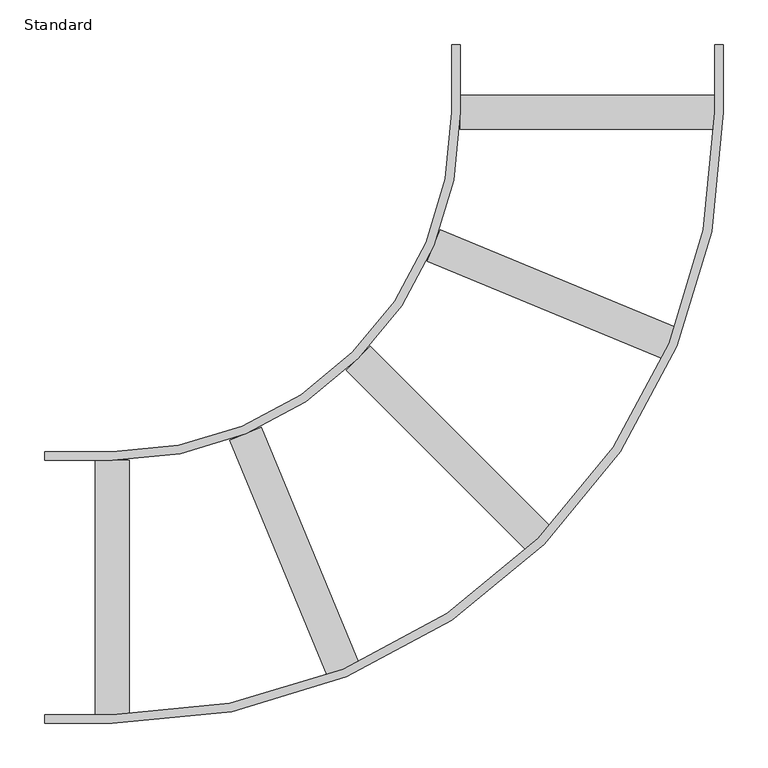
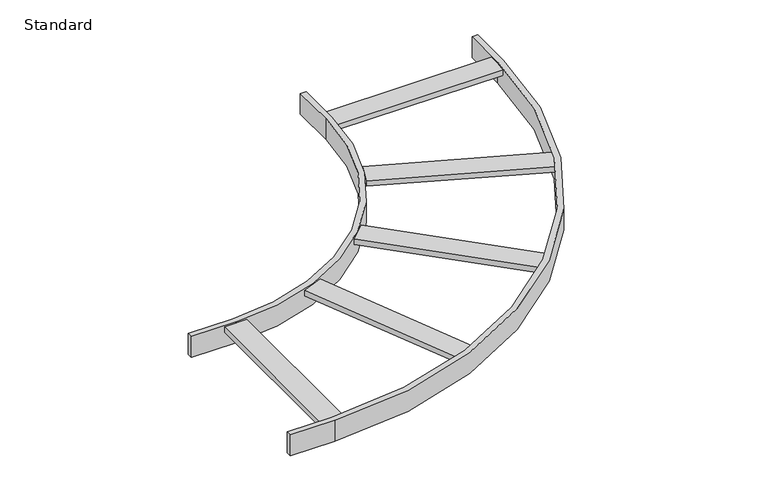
"""IFC4 building model written with IfcOpenShell, lengths in millimetres: cable carrier fitting geometry, Cable_Tray_Fitting-Bend-Chatsworth-Horizontal : Standard."""

from ifc_helpers import new_model, si_unit, point, frame, frame_2d, origin, place, context, project, spatial, polyline, circle_curve, trimmed, segment, composite_curve, outline, extrude, source, transform, mapped, element, save


def standard_ad48f5b5(model_context):
    return source(origin(), model_context, "Body", "SweptSolid", [
        extrude(outline(polyline([(-179.892065, 366.3526475), (-165.3118262, 401.5524577), (98.6867502, 292.2006669), (84.1065115, 257.0008567), (-179.892065, 366.3526475)])), frame((0.0, 0.0, 7.14248), z_axis=(0.0, 0.0, 1.0), x_axis=(1.0, 0.0, 0.0)), (0.0, 0.0, 1.0), 9.525),
        extrude(outline(polyline([(-401.5524577, 165.3118262), (-366.3526475, 179.892065), (-257.0008567, -84.1065115), (-292.2006669, -98.6867502), (-401.5524577, 165.3118262)])), frame((0.0, 0.0, 7.14248), z_axis=(0.0, 0.0, 1.0), x_axis=(1.0, 0.0, 0.0)), (0.0, 0.0, 1.0), 9.525),
        extrude(outline(polyline([(-142.875, 514.35), (-142.875, 552.45), (142.875, 552.45), (142.875, 514.35), (-142.875, 514.35)])), frame((0.0, 0.0, 7.14248), z_axis=(0.0, 0.0, 1.0), x_axis=(1.0, 0.0, 0.0)), (0.0, 0.0, 1.0), 9.525),
        extrude(outline(polyline([(-552.45, 142.875), (-514.35, 142.875), (-514.35, -142.875), (-552.45, -142.875), (-552.45, 142.875)])), frame((0.0, 0.0, 7.14248), z_axis=(0.0, 0.0, 1.0), x_axis=(1.0, 0.0, 0.0)), (0.0, 0.0, 1.0), 9.525),
        extrude(outline(polyline([(-270.7275085, 243.7867401), (-243.7867401, 270.7275085), (-41.7309774, 68.6717457), (-68.6717457, 41.7309774), (-270.7275085, 243.7867401)])), frame((0.0, 0.0, 7.14248), z_axis=(0.0, 0.0, 1.0), x_axis=(1.0, 0.0, 0.0)), (0.0, 0.0, 1.0), 9.525),
        extrude(outline(composite_curve([segment(polyline([(-609.6, -152.4), (-609.6, -142.875), (-533.4, -142.875)]), True, "CONTINUOUS"), segment(trimmed(circle_curve(frame_2d((-533.4, 533.4)), 676.275), [point((-533.4, -142.875))], [point((142.875, 533.4))], True, "CARTESIAN"), True, "CONTINUOUS"), segment(polyline([(142.875, 533.4), (142.875, 609.6), (152.4, 609.6), (152.4, 533.4)]), True, "CONTINUOUS"), segment(trimmed(circle_curve(frame_2d((-533.4, 533.4)), 685.8), [point((152.4, 533.4))], [point((-533.4, -152.4))], False, "CARTESIAN"), True, "CONTINUOUS"), segment(polyline([(-533.4, -152.4), (-609.6, -152.4)]), True, "CONTINUOUS")], self_intersect=False)), frame((0.0, 0.0, -19.05), z_axis=(0.0, 0.0, 1.0), x_axis=(1.0, 0.0, 0.0)), (0.0, 0.0, 1.0), 38.1),
        extrude(outline(composite_curve([segment(polyline([(-609.6, 142.875), (-609.6, 152.4), (-533.4, 152.4)]), True, "CONTINUOUS"), segment(trimmed(circle_curve(frame_2d((-533.4, 533.4)), 381.0), [point((-533.4, 152.4))], [point((-152.4, 533.4))], True, "CARTESIAN"), True, "CONTINUOUS"), segment(polyline([(-152.4, 533.4), (-152.4, 609.6), (-142.875, 609.6), (-142.875, 533.4)]), True, "CONTINUOUS"), segment(trimmed(circle_curve(frame_2d((-533.4, 533.4)), 390.525), [point((-142.875, 533.4))], [point((-533.4, 142.875))], False, "CARTESIAN"), True, "CONTINUOUS"), segment(polyline([(-533.4, 142.875), (-609.6, 142.875)]), True, "CONTINUOUS")], self_intersect=False)), frame((0.0, 0.0, -19.05), z_axis=(0.0, 0.0, 1.0), x_axis=(1.0, 0.0, 0.0)), (0.0, 0.0, 1.0), 38.1),
    ])


if __name__ == "__main__":
    model = new_model("IFC4")
    model_context = context("Model", 3, world=origin())
    ifc_project = project(units=[si_unit("LENGTHUNIT", "METRE", prefix="MILLI")], contexts=[model_context])
    site = spatial("IfcSite", under=ifc_project)
    building = spatial("IfcBuilding", under=site)
    placement = place(None, origin())
    standard_shape = standard_ad48f5b5(model_context)
    element("IfcCableCarrierFitting", 1, ObjectType="Cable_Tray_Fitting-Bend-Chatsworth-Horizontal : Standard", at=placement, inside=building, context=model_context, shape_type="MappedRepresentation", body=[
        mapped(standard_shape, transform((0.0, 0.0, 0.0), x_axis=(1.0, 0.0, 0.0), y_axis=(0.0, 1.0, 0.0), z_axis=(0.0, 0.0, 1.0))),
    ])
    save(model, "model.ifc")
